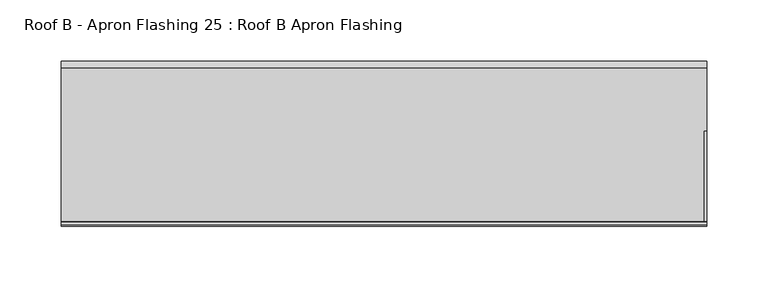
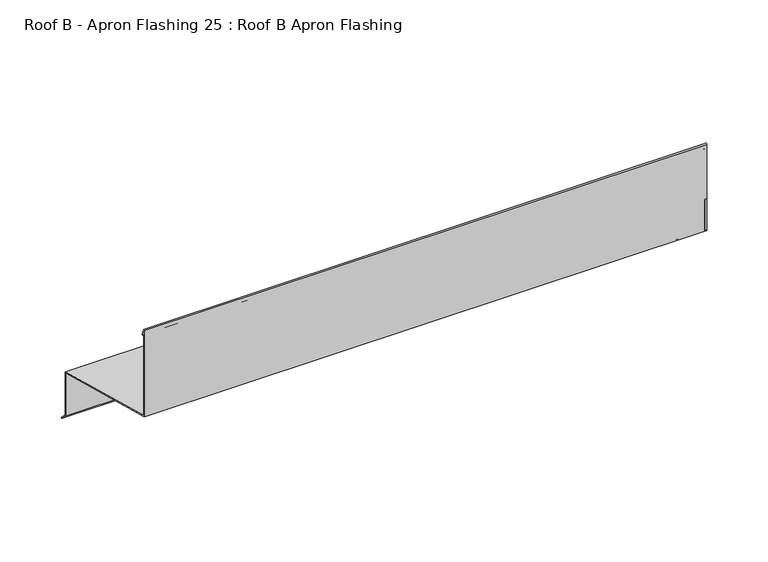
"""IFC4 building model written with IfcOpenShell, lengths in millimetres: proxy geometry, Roof B - Apron Flashing 25 : Roof B Apron Flashing."""

from ifc_helpers import new_model, si_unit, point, frame, frame_2d, origin, place, context, project, spatial, polyline, circle_curve, trimmed, segment, composite_curve, outline, extrude, source, transform, mapped, element, save


def roof_b_apron_flashing_25_roof_b_apron_flashing_de8b362f(model_context):
    return source(origin(), model_context, "Body", "SweptSolid", [
        extrude(outline(polyline([(-23631.3591805, -388.7215885), (-23676.6071624, -376.5974283), (-23676.6071624, -333.9762204), (-23631.3591805, -346.1003806), (-23631.3591805, -388.7215885)])), frame((12384.0936679, 0.0, 0.0), z_axis=(1.0, 0.0, 0.0), x_axis=(0.0, 1.0, 0.0)), (0.0, 0.0, 1.0), 2.0),
        extrude(outline(polyline([(-23681.6071624, -331.6011982), (-23759.7321624, -310.6676676), (-23759.7321624, -279.7934577), (-23681.6071624, -300.7269884), (-23681.6071624, -331.6011982)])), frame((12384.0936679, 0.0, 0.0), z_axis=(1.0, 0.0, 0.0), x_axis=(0.0, 1.0, 0.0)), (0.0, 0.0, 1.0), 2.0),
        extrude(outline(composite_curve([segment(polyline([(-23630.3591805, -345.3330536), (-23630.3591805, -388.338713), (-23624.3285452, -394.3693483), (-23625.035652, -395.0764551), (-23631.3591805, -388.7529266), (-23631.3591805, -346.1003806), (-23759.7321624, -311.7029438), (-23759.7321624, -225.8538686)]), True, "CONTINUOUS"), segment(trimmed(circle_curve(frame_2d((-23759.0531182, -225.8538686)), 0.6790442), [point((-23759.7321624, -225.8538686))], [point((-23758.4235194, -225.5994942))], False, "CARTESIAN"), True, "CONTINUOUS"), segment(polyline([(-23758.4235194, -225.5994942), (-23756.0090646, -231.5754797)]), True, "CONTINUOUS"), segment(trimmed(circle_curve(frame_2d((-23756.4726565, -231.762783)), 0.5), [point((-23756.0090646, -231.5754797))], [point((-23756.9362484, -231.9500863))], False, "CARTESIAN"), True, "CONTINUOUS"), segment(polyline([(-23756.9362484, -231.9500863), (-23758.7321624, -227.5050431), (-23758.7321624, -310.9356168), (-23630.3591805, -345.3330536)]), True, "CONTINUOUS")], self_intersect=False)), frame((11857.2186679, 0.0, 0.0), z_axis=(1.0, 0.0, 0.0), x_axis=(0.0, 1.0, 0.0)), (0.0, 0.0, 1.0), 528.875),
    ])


if __name__ == "__main__":
    model = new_model("IFC4")
    model_context = context("Model", 3, world=origin())
    ifc_project = project(units=[si_unit("LENGTHUNIT", "METRE", prefix="MILLI")], contexts=[model_context])
    site = spatial("IfcSite", under=ifc_project)
    building = spatial("IfcBuilding", under=site)
    placement = place(None, origin())
    roof_b_apron_flashing_25_roof_b_apron_flashing_shape = roof_b_apron_flashing_25_roof_b_apron_flashing_de8b362f(model_context)
    element("IfcBuildingElementProxy", 1, Name="Roof B - Apron Flashing 25 : Roof B Apron Flashing", ObjectType="Roof B - Apron Flashing 25 : Roof B Apron Flashing", at=placement, inside=building, context=model_context, shape_type="MappedRepresentation", body=[
        mapped(roof_b_apron_flashing_25_roof_b_apron_flashing_shape, transform((0.0, 0.0, 0.0), x_axis=(1.0, 0.0, 0.0), y_axis=(0.0, 1.0, 0.0), z_axis=(0.0, 0.0, 1.0))),
    ])
    save(model, "model.ifc")
